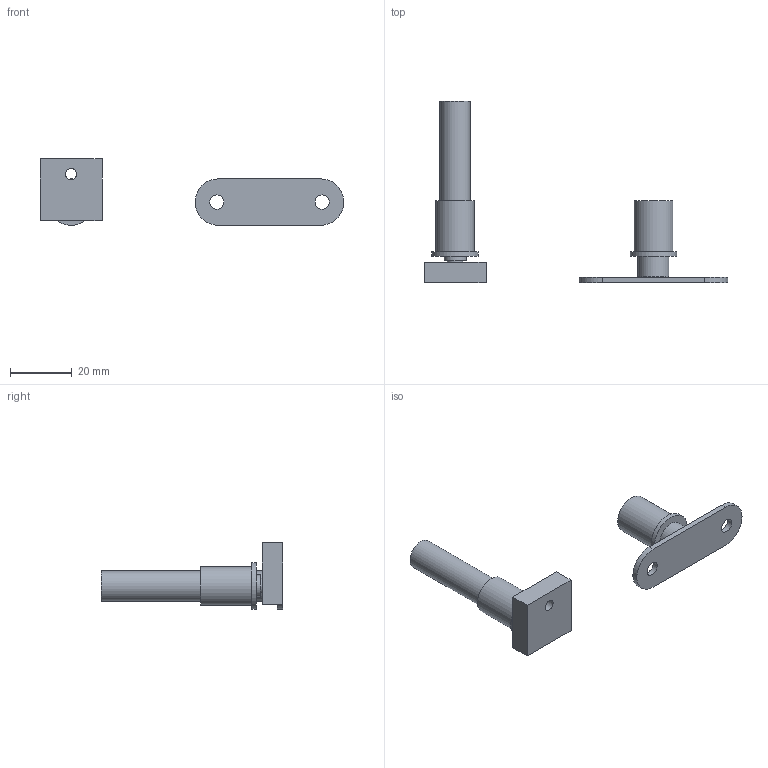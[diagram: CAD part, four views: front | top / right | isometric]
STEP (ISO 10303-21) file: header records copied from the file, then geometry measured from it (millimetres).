
FILE_DESCRIPTION( ( 'STEP AP214' ), '1' );
FILE_NAME( 'C:/Users/KOSH/Desktop/2021/Sunil/New folder/9266242.stp', '2021-11-15T13:19:59', ( '' ), ( '' ), ' ', 'PARTsolutions', ' ' );
FILE_SCHEMA( ( 'AUTOMOTIVE_DESIGN { 1 0 10303 214 1 1 1 1 }' ) );
Length unit declared in the file: millimetre
Products named in the file (5): 9266242; _socket_pusher; _socket_magnet; _counterplate; _activator_2
Assembly tree (4 placements, depth 2):
  9266242
    _socket_pusher
    _socket_magnet
    _counterplate
    _activator_2
Bounding box: 98 x 58.6 x 21.5 mm (x, y, z)
Volume: 11301.6 mm3; surface area: 6293.3 mm2
Topology: 4 solids, 4 shells, 33 faces, 57 edges, 38 vertices
Faces by surface type: plane 20, cylinder 13
Full cylindrical faces by diameter (mm): 3.6 x1, 4.6 x2, 5 x1, 7.15 x1, 9.8 x1, 10 x1, 12.5 x2, 15 x2
Entity records: 1104 total; most frequent: DIRECTION 148, CARTESIAN_POINT 122, ORIENTED_EDGE 92, AXIS2_PLACEMENT_3D 64, EDGE_LOOP 56, EDGE_CURVE 46, FACE_OUTER_BOUND 44, VERTEX_POINT 38
